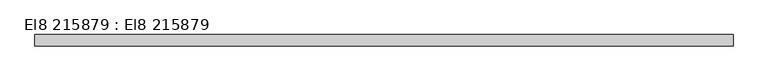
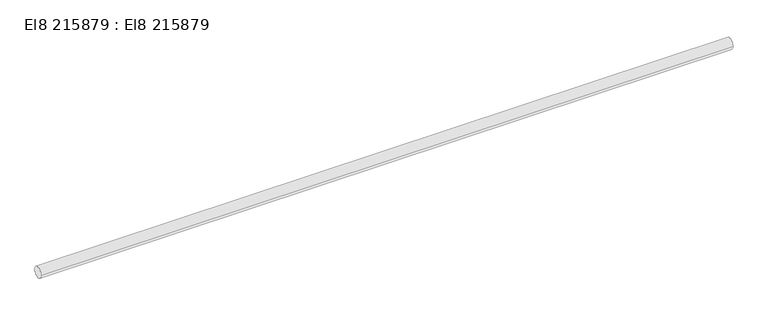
"""IFC4 building model written with IfcOpenShell, lengths in millimetres: cable carrier segment geometry, El8 215879 : El8 215879."""

import ifcopenshell
import ifcopenshell.guid

model = None  # the IFC model being written
_history = None  # IfcOwnerHistory: only IFC2X3 demands one
_inside = {}  # id of a spatial element -> (the spatial element, [elements in it])
_under = {}  # id of a project, library or spatial element -> (it, [spatial elements below it])
_declared = {}  # id of a project -> (the project, [libraries it declares])
_typed = {}  # id of a type object -> (the type object, [elements of that type])
_made_of = {}  # id of a material, layer set ... -> (it, [elements and type objects made of it])


def new_model(schema):
    """Start an empty IFC model of exactly this schema.

    Asked for "IFC4X3", IfcOpenShell would pick the latest addendum, in which some entities
    have other attributes; the version numbers below select the first issue.
    IFC2X3 requires an IfcOwnerHistory on every rooted entity: one is made here for all.
    """
    global model, _history
    if schema == "IFC4X3":
        model = ifcopenshell.file(schema_version=(4, 3, 0, 0))
    else:
        model = ifcopenshell.file(schema=schema)
    _inside.clear()
    _under.clear()
    _declared.clear()
    _typed.clear()
    _made_of.clear()
    _history = None
    if model.schema == "IFC2X3":
        org = make("IfcOrganization", Name="unknown")
        user = make(
            "IfcPersonAndOrganization",
            ThePerson=make("IfcPerson", FamilyName="unknown"),
            TheOrganization=org,
        )
        app = make(
            "IfcApplication",
            ApplicationDeveloper=org,
            Version="unknown",
            ApplicationFullName="unknown",
            ApplicationIdentifier="unknown",
        )
        _history = make(
            "IfcOwnerHistory",
            OwningUser=user,
            OwningApplication=app,
            ChangeAction="ADDED",
            CreationDate=0,
        )
    return model


def make(cls, **values):
    """One entity of the class cls with the attributes given. An attribute that is None is left unset."""
    return model.create_entity(
        cls, **{name: value for name, value in values.items() if value is not None}
    )


def rooted(cls, **values):
    """An entity with a GlobalId (a new one), such as an element, a storey or a relation."""
    return make(cls, GlobalId=ifcopenshell.guid.new(), OwnerHistory=_history, **values)


def si_unit(unit_type, name, prefix=None):
    """IfcSIUnit, for example si_unit("LENGTHUNIT", "METRE", prefix="MILLI")."""
    return make("IfcSIUnit", UnitType=unit_type, Prefix=prefix, Name=name)


def assignment(units):
    """IfcUnitAssignment: the units of a project."""
    return None if units is None else make("IfcUnitAssignment", Units=units)


def point(xyz):
    """IfcCartesianPoint."""
    return None if xyz is None else make("IfcCartesianPoint", Coordinates=xyz)


def direction(xyz):
    """IfcDirection."""
    return None if xyz is None else make("IfcDirection", DirectionRatios=xyz)


def frame(location, z_axis=None, x_axis=None):
    """IfcAxis2Placement3D, a coordinate frame: its origin and axes. An axis left out is left unset."""
    return make(
        "IfcAxis2Placement3D",
        Location=point(location),
        Axis=direction(z_axis),
        RefDirection=direction(x_axis),
    )


def frame_2d(location, x_axis=None):
    """IfcAxis2Placement2D, a coordinate frame in the plane: its origin and x axis."""
    return make(
        "IfcAxis2Placement2D", Location=point(location), RefDirection=direction(x_axis)
    )


def origin():
    """The frame at (0, 0, 0) with its axes left unset."""
    return frame((0.0, 0.0, 0.0))


def place(relative_to, where):
    """IfcLocalPlacement: puts the frame where relative to a parent placement (None: the world)."""
    return make(
        "IfcLocalPlacement", PlacementRelTo=relative_to, RelativePlacement=where
    )


def context(
    kind, dimensions, precision=None, world=None, true_north=None, identifier=None
):
    """IfcGeometricRepresentationContext, for example the 3D "Model" context."""
    return make(
        "IfcGeometricRepresentationContext",
        ContextIdentifier=identifier,
        ContextType=kind,
        CoordinateSpaceDimension=dimensions,
        Precision=precision,
        WorldCoordinateSystem=world,
        TrueNorth=true_north,
    )


def project(units=None, contexts=None):
    """IfcProject with its units and contexts."""
    return rooted(
        "IfcProject",
        Name="project",
        RepresentationContexts=contexts,
        UnitsInContext=assignment(units),
    )


def spatial(cls, under=None, at=None, **own):
    """A site, building, storey or space (cls), placed at a placement, below another one or the project."""
    s = rooted(cls, ObjectPlacement=at, **own)
    if under is not None:
        _under.setdefault(under.id(), (under, []))[1].append(s)
    return s


def circle_curve(where, radius):
    """IfcCircle in the frame where."""
    return make("IfcCircle", Position=where, Radius=radius)


def trimmed(basis, trim1, trim2, sense, master):
    """IfcTrimmedCurve: the piece of a basis curve between two trims."""
    return make(
        "IfcTrimmedCurve",
        BasisCurve=basis,
        Trim1=trim1,
        Trim2=trim2,
        SenseAgreement=sense,
        MasterRepresentation=master,
    )


def segment(curve, same_sense, transition):
    """IfcCompositeCurveSegment."""
    return make(
        "IfcCompositeCurveSegment",
        Transition=transition,
        SameSense=same_sense,
        ParentCurve=curve,
    )


def composite_curve(segments, self_intersect=None):
    """IfcCompositeCurve: segments joined end to end."""
    return make("IfcCompositeCurve", Segments=segments, SelfIntersect=self_intersect)


def outline(outer, holes=None, kind="AREA"):
    """IfcArbitraryClosedProfileDef: a profile drawn as a closed curve; with holes, ...WithVoids."""
    if holes is None:
        return make("IfcArbitraryClosedProfileDef", ProfileType=kind, OuterCurve=outer)
    return make(
        "IfcArbitraryProfileDefWithVoids",
        ProfileType=kind,
        OuterCurve=outer,
        InnerCurves=holes,
    )


def extrude(swept, where, along, depth):
    """IfcExtrudedAreaSolid: the profile swept, set in the frame where, extruded along a direction by depth."""
    return make(
        "IfcExtrudedAreaSolid",
        SweptArea=swept,
        Position=where,
        ExtrudedDirection=direction(along),
        Depth=depth,
    )


def shape(context_of_items, identifier, shape_type, items):
    """IfcShapeRepresentation: the items that make up one representation, for example the "Body"."""
    return make(
        "IfcShapeRepresentation",
        ContextOfItems=context_of_items,
        RepresentationIdentifier=identifier,
        RepresentationType=shape_type,
        Items=items,
    )


def source(mapping_origin, context_of_items, identifier, shape_type, items):
    """IfcRepresentationMap: a shape defined once, which mapped items show again and again."""
    return make(
        "IfcRepresentationMap",
        MappingOrigin=mapping_origin,
        MappedRepresentation=shape(context_of_items, identifier, shape_type, items),
    )


def transform(
    local_origin,
    x_axis=None,
    y_axis=None,
    z_axis=None,
    scale=None,
    scale2=None,
    scale3=None,
    uniform=True,
):
    """IfcCartesianTransformationOperator3D, or its non-uniform kind. x_axis, y_axis, z_axis: its Axis1, 2, 3."""
    if uniform:
        return make(
            "IfcCartesianTransformationOperator3D",
            Axis1=direction(x_axis),
            Axis2=direction(y_axis),
            LocalOrigin=point(local_origin),
            Scale=scale,
            Axis3=direction(z_axis),
        )
    return make(
        "IfcCartesianTransformationOperator3DnonUniform",
        Axis1=direction(x_axis),
        Axis2=direction(y_axis),
        LocalOrigin=point(local_origin),
        Scale=scale,
        Axis3=direction(z_axis),
        Scale2=scale2,
        Scale3=scale3,
    )


def mapped(mapping_source, mapping_target):
    """IfcMappedItem: shows the shape of a source again, moved by a transform."""
    return make(
        "IfcMappedItem", MappingSource=mapping_source, MappingTarget=mapping_target
    )


def made_of(thing, what):
    """Note that an element or type object is made of a material, layer set ...; save() writes the relation."""
    if what is not None:
        _made_of.setdefault(what.id(), (what, []))[1].append(thing)
    return thing


def element(
    cls,
    number,
    at=None,
    inside=None,
    cuts=None,
    type_object=None,
    material=None,
    context=None,
    identifier="Body",
    shape_type=None,
    held_by="IfcProductDefinitionShape",
    body=None,
    shapes=None,
    **own,
):
    """One element of the class cls, such as IfcWall. Its Tag is "e" and its number.

    at: its placement. inside: the storey or other place that contains it. cuts: it is an
    opening in that element (IfcRelVoidsElement). A single representation is given by context,
    identifier, shape_type and body (its items); several are given by shapes. held_by: the class
    of the entity that holds the representations. save() writes the other relations.
    """
    e = rooted(cls, Tag="e%d" % number, ObjectPlacement=at, **own)
    if body is not None:
        shapes = [shape(context, identifier, shape_type, body)]
    if shapes is not None:
        e.Representation = make(held_by, Representations=shapes)
    if inside is not None:
        _inside.setdefault(inside.id(), (inside, []))[1].append(e)
    if cuts is not None:
        rooted(
            "IfcRelVoidsElement", RelatingBuildingElement=cuts, RelatedOpeningElement=e
        )
    if type_object is not None:
        _typed.setdefault(type_object.id(), (type_object, []))[1].append(e)
    return made_of(e, material)


def aggregate(whole, parts):
    """IfcRelAggregates: a whole, such as a stair, and the parts it consists of."""
    return rooted("IfcRelAggregates", RelatingObject=whole, RelatedObjects=parts)


def save(model, path):
    """Write the relations noted so far, then the file.

    IfcRelAggregates (storeys below a building ...), IfcRelContainedInSpatialStructure (elements
    in a storey), IfcRelDefinesByType, IfcRelAssociatesMaterial and IfcRelDeclares: one each for
    every whole, place, type object, material and project.
    """
    for whole, parts in _under.values():
        aggregate(whole, parts)
    for where, things in _inside.values():
        rooted(
            "IfcRelContainedInSpatialStructure",
            RelatedElements=things,
            RelatingStructure=where,
        )
    for kind, things in _typed.values():
        rooted("IfcRelDefinesByType", RelatedObjects=things, RelatingType=kind)
    for what, things in _made_of.values():
        rooted("IfcRelAssociatesMaterial", RelatedObjects=things, RelatingMaterial=what)
    for by, libraries in _declared.values():
        rooted("IfcRelDeclares", RelatingContext=by, RelatedDefinitions=libraries)
    model.write(path)


def el8_215879_el8_215879_25cbe72b(model_context):
    return source(origin(), model_context, "Body", "SweptSolid", [
        extrude(outline(composite_curve([segment(trimmed(circle_curve(frame_2d((17022.1, 4200.0)), 9.5), [point((17012.6, 4200.0))], [point((17031.6, 4200.0))], False, "CARTESIAN"), True, "CONTINUOUS"), segment(trimmed(circle_curve(frame_2d((17022.1, 4200.0)), 9.5), [point((17031.6, 4200.0))], [point((17012.6, 4200.0))], False, "CARTESIAN"), True, "CONTINUOUS")], self_intersect=False)), frame((16105.0, 0.0, 0.0), z_axis=(1.0, 0.0, 0.0), x_axis=(0.0, 1.0, 0.0)), (0.0, 0.0, 1.0), 1180.0),
    ])


if __name__ == "__main__":
    model = new_model("IFC4")
    model_context = context("Model", 3, world=origin())
    ifc_project = project(units=[si_unit("LENGTHUNIT", "METRE", prefix="MILLI")], contexts=[model_context])
    site = spatial("IfcSite", under=ifc_project)
    building = spatial("IfcBuilding", under=site)
    placement = place(None, origin())
    el8_215879_el8_215879_shape = el8_215879_el8_215879_25cbe72b(model_context)
    element("IfcCableCarrierSegment", 1, ObjectType="El8 215879 : El8 215879", at=placement, inside=building, context=model_context, shape_type="MappedRepresentation", body=[
        mapped(el8_215879_el8_215879_shape, transform((0.0, 0.0, 0.0), x_axis=(1.0, 0.0, 0.0), y_axis=(0.0, 1.0, 0.0), z_axis=(0.0, 0.0, 1.0))),
    ])
    save(model, "model.ifc")
